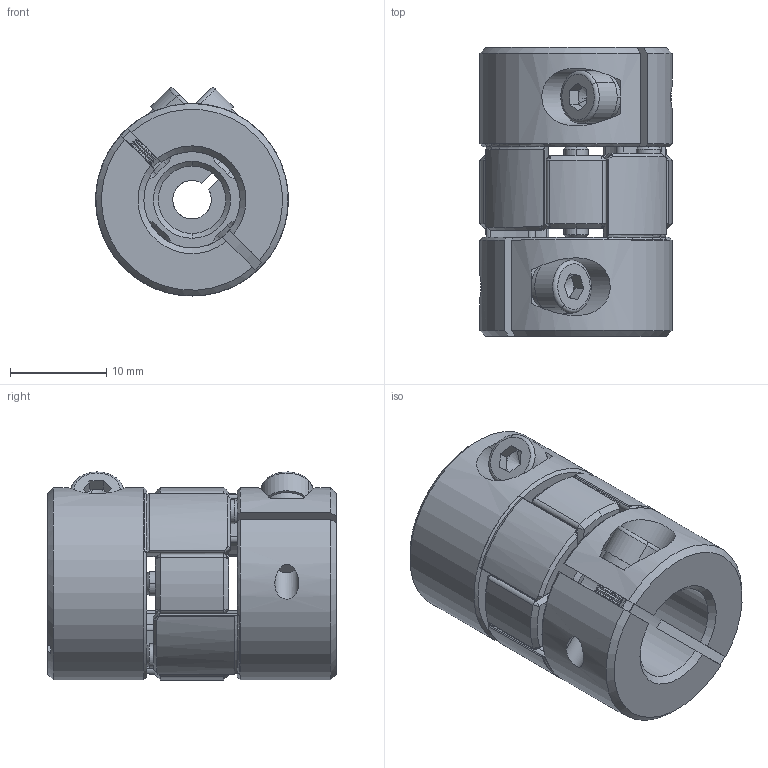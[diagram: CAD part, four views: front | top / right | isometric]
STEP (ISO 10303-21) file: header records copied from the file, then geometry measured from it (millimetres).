
FILE_DESCRIPTION (( 'STEP AP203' ), '1' );
FILE_NAME ('LF-B-D20L30-4-10.STEP', '2021-10-27T02:42:05', ( '' ), ( '' ), 'SwSTEP 2.0', 'SolidWorks 2018', '' );
FILE_SCHEMA (( 'CONFIG_CONTROL_DESIGN' ));
Length unit declared in the file: millimetre
Products named in the file (1): LF-B-D20L30-4-10
Bounding box: 20 x 30 x 21.62 mm (x, y, z)
Volume: 7396.9 mm3; surface area: 4853 mm2
Topology: 1 solids, 1 shells, 518 faces, 1253 edges, 691 vertices
Faces by surface type: cone 252, cylinder 192, plane 62, torus 12
Entity records: 15024 total; most frequent: CARTESIAN_POINT 2904, DIRECTION 2742, ORIENTED_EDGE 2426, EDGE_CURVE 1213, AXIS2_PLACEMENT_3D 1107, VERTEX_POINT 691, CIRCLE 588, EDGE_LOOP 546
